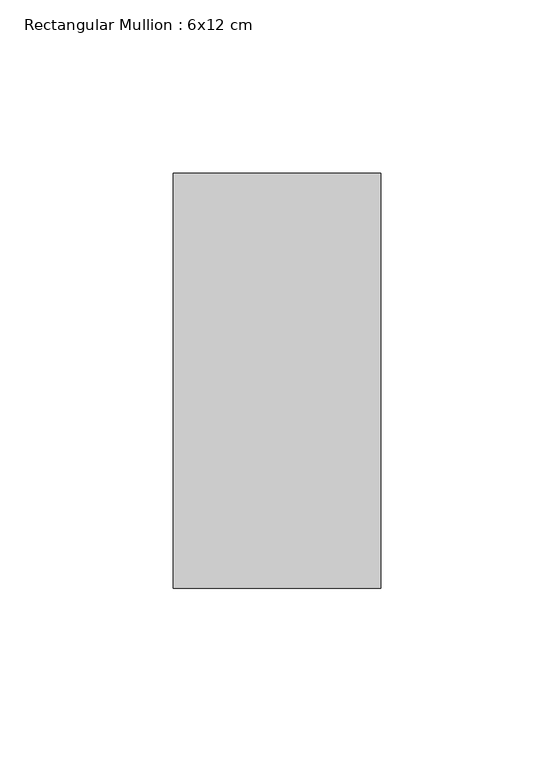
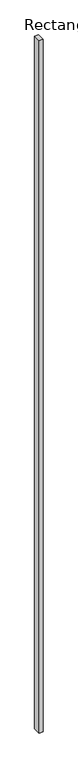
"""IFC4 building model written with IfcOpenShell, lengths in millimetres: member geometry, Rectangular Mullion : 6x12 cm."""

from ifc_helpers import new_model, si_unit, frame, origin, place, context, project, spatial, polyline, outline, extrude, source, transform, mapped, element, save


def rectangular_mullion_6x12_cm_dc85fb36(model_context):
    return source(origin(), model_context, "Body", "SweptSolid", [
        extrude(outline(polyline([(30.0, 205.0), (30.0, 85.0), (-30.0, 85.0), (-30.0, 205.0), (30.0, 205.0)])), frame((0.0, 0.0, -11160.0), z_axis=(0.0, 0.0, 1.0), x_axis=(1.0, 0.0, 0.0)), (0.0, 0.0, 1.0), 11160.0),
    ])


if __name__ == "__main__":
    model = new_model("IFC4")
    model_context = context("Model", 3, world=origin())
    ifc_project = project(units=[si_unit("LENGTHUNIT", "METRE", prefix="MILLI")], contexts=[model_context])
    site = spatial("IfcSite", under=ifc_project)
    building = spatial("IfcBuilding", under=site)
    placement = place(None, origin())
    rectangular_mullion_6x12_cm_shape = rectangular_mullion_6x12_cm_dc85fb36(model_context)
    element("IfcMember", 1, ObjectType="Rectangular Mullion : 6x12 cm", at=placement, inside=building, context=model_context, shape_type="MappedRepresentation", body=[
        mapped(rectangular_mullion_6x12_cm_shape, transform((0.0, 0.0, 0.0), x_axis=(1.0, 0.0, 0.0), y_axis=(0.0, 1.0, 0.0), z_axis=(0.0, 0.0, 1.0))),
    ])
    save(model, "model.ifc")
